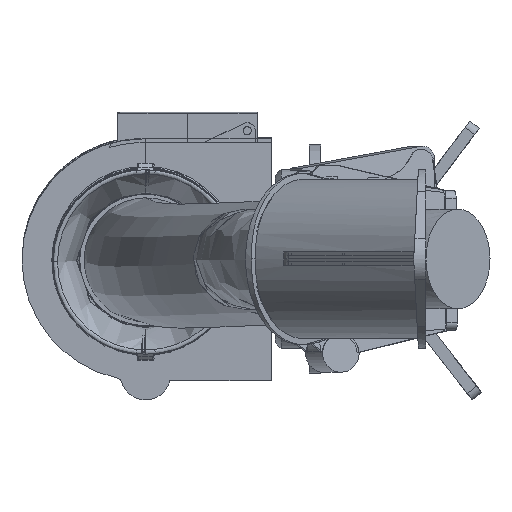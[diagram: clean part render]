
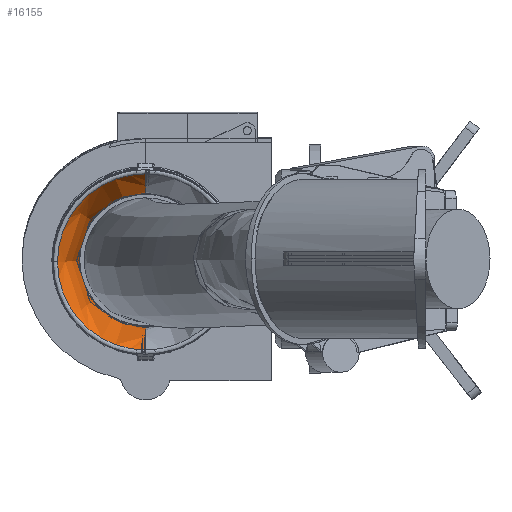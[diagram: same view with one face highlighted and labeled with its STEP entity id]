
A CAD part, left-side view. The second image highlights one B-rep face of the part: STEP entity #16155.
In plain terms, the highlighted free-form (B-spline) face has degree [3, 3] with [9, 4] control points.
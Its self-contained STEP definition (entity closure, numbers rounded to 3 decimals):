
#112 = CARTESIAN_POINT ( 'NONE',  ( 1643.828, 229.5, 1765.498 ) ) ;
#116 = B_SPLINE_CURVE_WITH_KNOTS ( 'NONE', 3,
 ( #35510, #7813, #112, #33500, #33303, #36325, #39952, #8802, #30859 ),
 .UNSPECIFIED., .F., .F.,
 ( 4, 1, 1, 1, 1, 1, 4 ),
 ( 0., 0.125, 0.25, 0.5, 0.75, 0.875, 0.955 ),
 .UNSPECIFIED. ) ;
#373 = CARTESIAN_POINT ( 'NONE',  ( 1619.358, 316.83, 1754.894 ) ) ;
#1299 = EDGE_CURVE ( 'NONE', #36948, #9512, #37552, .T. ) ;
#1919 = AXIS2_PLACEMENT_3D ( 'NONE', #16063, #10546, #9962 ) ;
#3392 = CARTESIAN_POINT ( 'NONE',  ( 1621.212, 314.183, 1756.27 ) ) ;
#4837 = EDGE_CURVE ( 'NONE', #36948, #37659, #25797, .T. ) ;
#5020 = CARTESIAN_POINT ( 'NONE',  ( 1648.145, 229.5, 1766.048 ) ) ;
#5522 = AXIS2_PLACEMENT_3D ( 'NONE', #14477, #16722, #23172 ) ;
#5813 = DIRECTION ( 'NONE',  ( 0., 1., 0. ) ) ;
#6227 = CARTESIAN_POINT ( 'NONE',  ( 1618.832, 314.183, 1840.919 ) ) ;
#6301 = CARTESIAN_POINT ( 'NONE',  ( 1616.904, 229.5, 1842.189 ) ) ;
#6466 = ORIENTED_EDGE ( 'NONE', *, *, #19327, .F. ) ;
#6591 = EDGE_LOOP ( 'NONE', ( #19060, #38513, #30381, #12463, #15623, #6466 ) ) ;
#6634 = CARTESIAN_POINT ( 'NONE',  ( 1641.93, 229.5, 1832.977 ) ) ;
#7375 = CARTESIAN_POINT ( 'NONE',  ( 1616.165, 229.5, 1842.7 ) ) ;
#7488 = DIRECTION ( 'NONE',  ( 1., 0., 0.028 ) ) ;
#7813 = CARTESIAN_POINT ( 'NONE',  ( 1646.709, 229.5, 1765.898 ) ) ;
#7920 = VERTEX_POINT ( 'NONE', #10565 ) ;
#8100 = AXIS2_PLACEMENT_3D ( 'NONE', #9230, #33353, #5813 ) ;
#8109 = CARTESIAN_POINT ( 'NONE',  ( 1617.408, 229.5, 1798.521 ) ) ;
#8551 = CARTESIAN_POINT ( 'NONE',  ( 1646.271, 229.5, 1832.67 ) ) ;
#8679 = CARTESIAN_POINT ( 'NONE',  ( 1641.93, 297.006, 1832.977 ) ) ;
#8802 = CARTESIAN_POINT ( 'NONE',  ( 1619.358, 229.5, 1754.894 ) ) ;
#9067 = CARTESIAN_POINT ( 'NONE',  ( 1616.904, 229.5, 1842.189 ) ) ;
#9230 = CARTESIAN_POINT ( 'NONE',  ( 1617.408, 229.5, 1798.521 ) ) ;
#9252 = CARTESIAN_POINT ( 'NONE',  ( 1631.644, 229.5, 1762.155 ) ) ;
#9456 = CARTESIAN_POINT ( 'NONE',  ( 1625.454, 308.886, 1759.039 ) ) ;
#9512 = VERTEX_POINT ( 'NONE', #7375 ) ;
#9962 = DIRECTION ( 'NONE',  ( 0., 1., 0. ) ) ;
#10546 = DIRECTION ( 'NONE',  ( -1., 0., -0.028 ) ) ;
#10565 = CARTESIAN_POINT ( 'NONE',  ( 1648.145, 229.5, 1766.048 ) ) ;
#12326 = CARTESIAN_POINT ( 'NONE',  ( 1621.212, 229.5, 1756.27 ) ) ;
#12463 = ORIENTED_EDGE ( 'NONE', *, *, #1299, .T. ) ;
#12708 = CARTESIAN_POINT ( 'NONE',  ( 1638.28, 229.5, 1764.327 ) ) ;
#12901 = CARTESIAN_POINT ( 'NONE',  ( 1625.454, 229.5, 1759.039 ) ) ;
#13503 = CARTESIAN_POINT ( 'NONE',  ( 1646.271, 229.5, 1832.67 ) ) ;
#13775 = DIRECTION ( 'NONE',  ( 0., 1., 0. ) ) ;
#13897 = CIRCLE ( 'NONE', #8100, 44.196 ) ;
#14352 = CARTESIAN_POINT ( 'NONE',  ( 1646.271, 229.5, 1832.67 ) ) ;
#14477 = CARTESIAN_POINT ( 'NONE',  ( 1647.208, 229.5, 1799.359 ) ) ;
#14762 = CARTESIAN_POINT ( 'NONE',  ( 1644.829, 229.5, 1832.74 ) ) ;
#15257 = CARTESIAN_POINT ( 'NONE',  ( 1616.165, 229.5, 1842.7 ) ) ;
#15570 = CARTESIAN_POINT ( 'NONE',  ( 1636.326, 229.5, 1833.834 ) ) ;
#15623 = ORIENTED_EDGE ( 'NONE', *, *, #33794, .F. ) ;
#15764 = CARTESIAN_POINT ( 'NONE',  ( 1616.165, 317.892, 1842.7 ) ) ;
#16063 = CARTESIAN_POINT ( 'NONE',  ( 1647.208, 229.5, 1799.359 ) ) ;
#16155 = ADVANCED_FACE ( 'NONE', ( #21228 ), #18849, .F. ) ;
#16722 = DIRECTION ( 'NONE',  ( -1., 0., -0.028 ) ) ;
#16947 = VERTEX_POINT ( 'NONE', #23341 ) ;
#17404 = CARTESIAN_POINT ( 'NONE',  ( 1646.271, 296.148, 1832.67 ) ) ;
#18388 = CARTESIAN_POINT ( 'NONE',  ( 1631.644, 303.004, 1762.155 ) ) ;
#18588 = CARTESIAN_POINT ( 'NONE',  ( 1618.65, 317.892, 1754.342 ) ) ;
#18849 =( BOUNDED_SURFACE ( )  B_SPLINE_SURFACE ( 3, 3, ( 
 ( #5020, #32961, #17404, #14352 ),
 ( #26697, #26900, #23866, #14762 ),
 ( #27095, #20826, #8679, #6634 ),
 ( #12708, #36994, #21615, #15570 ),
 ( #9252, #18388, #25062, #36800 ),
 ( #12901, #9456, #30746, #37198 ),
 ( #12326, #3392, #6227, #24668 ),
 ( #27901, #373, #18972, #9067 ),
 ( #33972, #18588, #15764, #22003 ) ),
 .UNSPECIFIED., .F., .F., .F. ) 
 B_SPLINE_SURFACE_WITH_KNOTS ( ( 4, 1, 1, 1, 1, 1, 4 ),
 ( 4, 4 ),
 ( 0., 0.125, 0.25, 0.5, 0.75, 0.875, 0.955 ),
 ( 0., 1. ),
 .UNSPECIFIED. ) 
 GEOMETRIC_REPRESENTATION_ITEM ( )  RATIONAL_B_SPLINE_SURFACE ( (
 ( 1., 0.333, 0.333, 1.),
 ( 1., 0.333, 0.333, 1.),
 ( 1., 0.333, 0.333, 1.),
 ( 1., 0.333, 0.333, 1.),
 ( 1., 0.333, 0.333, 1.),
 ( 1., 0.333, 0.333, 1.),
 ( 1., 0.333, 0.333, 1.),
 ( 1., 0.333, 0.333, 1.),
 ( 1., 0.333, 0.333, 1.) ) ) 
 REPRESENTATION_ITEM ( '' )  SURFACE ( )  );
#18972 = CARTESIAN_POINT ( 'NONE',  ( 1616.904, 316.83, 1842.189 ) ) ;
#19060 = ORIENTED_EDGE ( 'NONE', *, *, #34044, .F. ) ;
#19327 = EDGE_CURVE ( 'NONE', #16947, #33024, #19706, .T. ) ;
#19706 = CIRCLE ( 'NONE', #39751, 44.196 ) ;
#20826 = CARTESIAN_POINT ( 'NONE',  ( 1643.828, 297.006, 1765.498 ) ) ;
#21228 = FACE_OUTER_BOUND ( 'NONE', #6591, .T. ) ;
#21615 = CARTESIAN_POINT ( 'NONE',  ( 1636.326, 299.035, 1833.834 ) ) ;
#21689 = CARTESIAN_POINT ( 'NONE',  ( 1623.223, 229.5, 1838.394 ) ) ;
#22003 = CARTESIAN_POINT ( 'NONE',  ( 1616.165, 229.5, 1842.7 ) ) ;
#23172 = DIRECTION ( 'NONE',  ( 0., 1., 0. ) ) ;
#23341 = CARTESIAN_POINT ( 'NONE',  ( 1618.65, 229.5, 1754.342 ) ) ;
#23866 = CARTESIAN_POINT ( 'NONE',  ( 1644.829, 296.369, 1832.74 ) ) ;
#24668 = CARTESIAN_POINT ( 'NONE',  ( 1618.832, 229.5, 1840.919 ) ) ;
#25062 = CARTESIAN_POINT ( 'NONE',  ( 1629.578, 303.004, 1835.63 ) ) ;
#25797 = CIRCLE ( 'NONE', #1919, 33.324 ) ;
#26697 = CARTESIAN_POINT ( 'NONE',  ( 1646.709, 229.5, 1765.898 ) ) ;
#26900 = CARTESIAN_POINT ( 'NONE',  ( 1646.709, 296.369, 1765.898 ) ) ;
#27095 = CARTESIAN_POINT ( 'NONE',  ( 1643.828, 229.5, 1765.498 ) ) ;
#27355 = CARTESIAN_POINT ( 'NONE',  ( 1636.326, 229.5, 1833.834 ) ) ;
#27564 = CARTESIAN_POINT ( 'NONE',  ( 1644.829, 229.5, 1832.74 ) ) ;
#27901 = CARTESIAN_POINT ( 'NONE',  ( 1619.358, 229.5, 1754.894 ) ) ;
#30381 = ORIENTED_EDGE ( 'NONE', *, *, #4837, .F. ) ;
#30746 = CARTESIAN_POINT ( 'NONE',  ( 1623.223, 308.886, 1838.394 ) ) ;
#30809 = CARTESIAN_POINT ( 'NONE',  ( 1641.93, 229.5, 1832.977 ) ) ;
#30859 = CARTESIAN_POINT ( 'NONE',  ( 1618.65, 229.5, 1754.342 ) ) ;
#32961 = CARTESIAN_POINT ( 'NONE',  ( 1648.145, 296.148, 1766.048 ) ) ;
#33024 = VERTEX_POINT ( 'NONE', #37400 ) ;
#33303 = CARTESIAN_POINT ( 'NONE',  ( 1631.644, 229.5, 1762.155 ) ) ;
#33353 = DIRECTION ( 'NONE',  ( 1., 0., 0.028 ) ) ;
#33500 = CARTESIAN_POINT ( 'NONE',  ( 1638.28, 229.5, 1764.327 ) ) ;
#33794 = EDGE_CURVE ( 'NONE', #33024, #9512, #13897, .T. ) ;
#33972 = CARTESIAN_POINT ( 'NONE',  ( 1618.65, 229.5, 1754.342 ) ) ;
#34037 = CARTESIAN_POINT ( 'NONE',  ( 1618.832, 229.5, 1840.919 ) ) ;
#34038 = EDGE_CURVE ( 'NONE', #37659, #7920, #39786, .T. ) ;
#34044 = EDGE_CURVE ( 'NONE', #7920, #16947, #116, .T. ) ;
#35510 = CARTESIAN_POINT ( 'NONE',  ( 1648.145, 229.5, 1766.048 ) ) ;
#36325 = CARTESIAN_POINT ( 'NONE',  ( 1625.454, 229.5, 1759.039 ) ) ;
#36800 = CARTESIAN_POINT ( 'NONE',  ( 1629.578, 229.5, 1835.63 ) ) ;
#36948 = VERTEX_POINT ( 'NONE', #13503 ) ;
#36994 = CARTESIAN_POINT ( 'NONE',  ( 1638.28, 299.035, 1764.327 ) ) ;
#37071 = CARTESIAN_POINT ( 'NONE',  ( 1629.578, 229.5, 1835.63 ) ) ;
#37198 = CARTESIAN_POINT ( 'NONE',  ( 1623.223, 229.5, 1838.394 ) ) ;
#37400 = CARTESIAN_POINT ( 'NONE',  ( 1617.408, 273.696, 1798.521 ) ) ;
#37552 = B_SPLINE_CURVE_WITH_KNOTS ( 'NONE', 3,
 ( #8551, #27564, #30809, #27355, #37071, #21689, #34037, #6301, #15257 ),
 .UNSPECIFIED., .F., .F.,
 ( 4, 1, 1, 1, 1, 1, 4 ),
 ( 0., 0.125, 0.25, 0.5, 0.75, 0.875, 0.955 ),
 .UNSPECIFIED. ) ;
#37659 = VERTEX_POINT ( 'NONE', #39045 ) ;
#38513 = ORIENTED_EDGE ( 'NONE', *, *, #34038, .F. ) ;
#39045 = CARTESIAN_POINT ( 'NONE',  ( 1647.208, 262.824, 1799.359 ) ) ;
#39751 = AXIS2_PLACEMENT_3D ( 'NONE', #8109, #7488, #13775 ) ;
#39786 = CIRCLE ( 'NONE', #5522, 33.324 ) ;
#39952 = CARTESIAN_POINT ( 'NONE',  ( 1621.212, 229.5, 1756.27 ) ) ;
